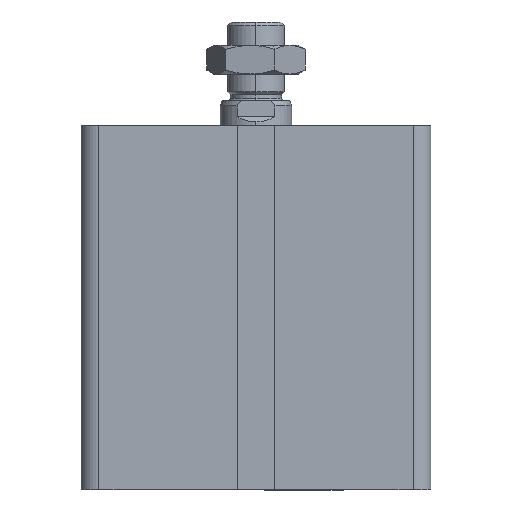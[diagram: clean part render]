
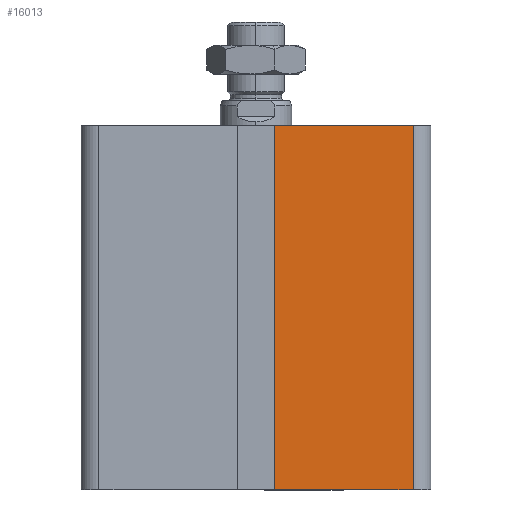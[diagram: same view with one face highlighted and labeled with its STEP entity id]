
A CAD part, front view. The second image highlights one B-rep face of the part: STEP entity #16013.
In plain terms, the highlighted planar face has unit normal (0, -1, 0).
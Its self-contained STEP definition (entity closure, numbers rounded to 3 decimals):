
#146 = AXIS2_PLACEMENT_3D ( 'NONE', #8347, #21628, #2619 ) ;
#1507 = DIRECTION ( 'NONE',  ( 0., 0., -1. ) ) ;
#2619 = DIRECTION ( 'NONE',  ( -1., 0., 0. ) ) ;
#3573 = EDGE_CURVE ( 'NONE', #15336, #7772, #17724, .T. ) ;
#3813 = CARTESIAN_POINT ( 'NONE',  ( 44., -49., 26. ) ) ;
#4102 = VECTOR ( 'NONE', #11470, 1000. ) ;
#4763 = EDGE_CURVE ( 'NONE', #15213, #7772, #12884, .T. ) ;
#6058 = EDGE_LOOP ( 'NONE', ( #8583, #19617, #16824, #15883 ) ) ;
#6985 = FACE_OUTER_BOUND ( 'NONE', #6058, .T. ) ;
#7112 = CARTESIAN_POINT ( 'NONE',  ( 5.075, -49., 26. ) ) ;
#7772 = VERTEX_POINT ( 'NONE', #21757 ) ;
#8347 = CARTESIAN_POINT ( 'NONE',  ( 44., -49., 26. ) ) ;
#8526 = VECTOR ( 'NONE', #15165, 1000. ) ;
#8583 = ORIENTED_EDGE ( 'NONE', *, *, #4763, .T. ) ;
#11470 = DIRECTION ( 'NONE',  ( 0., 0., -1. ) ) ;
#12158 = EDGE_CURVE ( 'NONE', #13265, #15336, #16884, .T. ) ;
#12791 = CARTESIAN_POINT ( 'NONE',  ( 5.075, -49., 26. ) ) ;
#12884 = LINE ( 'NONE', #12791, #14389 ) ;
#13265 = VERTEX_POINT ( 'NONE', #18343 ) ;
#14098 = EDGE_CURVE ( 'NONE', #15213, #13265, #24381, .T. ) ;
#14307 = DIRECTION ( 'NONE',  ( 1., 0., 0. ) ) ;
#14389 = VECTOR ( 'NONE', #1507, 1000. ) ;
#15165 = DIRECTION ( 'NONE',  ( -1., 0., 0. ) ) ;
#15213 = VERTEX_POINT ( 'NONE', #7112 ) ;
#15336 = VERTEX_POINT ( 'NONE', #24604 ) ;
#15615 = CARTESIAN_POINT ( 'NONE',  ( 44., -49., 26. ) ) ;
#15883 = ORIENTED_EDGE ( 'NONE', *, *, #14098, .F. ) ;
#16013 = ADVANCED_FACE ( 'NONE', ( #6985 ), #23285, .F. ) ;
#16824 = ORIENTED_EDGE ( 'NONE', *, *, #12158, .F. ) ;
#16884 = LINE ( 'NONE', #3813, #4102 ) ;
#17084 = CARTESIAN_POINT ( 'NONE',  ( 44., -49., -76. ) ) ;
#17494 = VECTOR ( 'NONE', #14307, 1000. ) ;
#17724 = LINE ( 'NONE', #17084, #8526 ) ;
#18343 = CARTESIAN_POINT ( 'NONE',  ( 44., -49., 26. ) ) ;
#19617 = ORIENTED_EDGE ( 'NONE', *, *, #3573, .F. ) ;
#21628 = DIRECTION ( 'NONE',  ( 0., 1., 0. ) ) ;
#21757 = CARTESIAN_POINT ( 'NONE',  ( 5.075, -49., -76. ) ) ;
#23285 = PLANE ( 'NONE',  #146 ) ;
#24381 = LINE ( 'NONE', #15615, #17494 ) ;
#24604 = CARTESIAN_POINT ( 'NONE',  ( 44., -49., -76. ) ) ;
